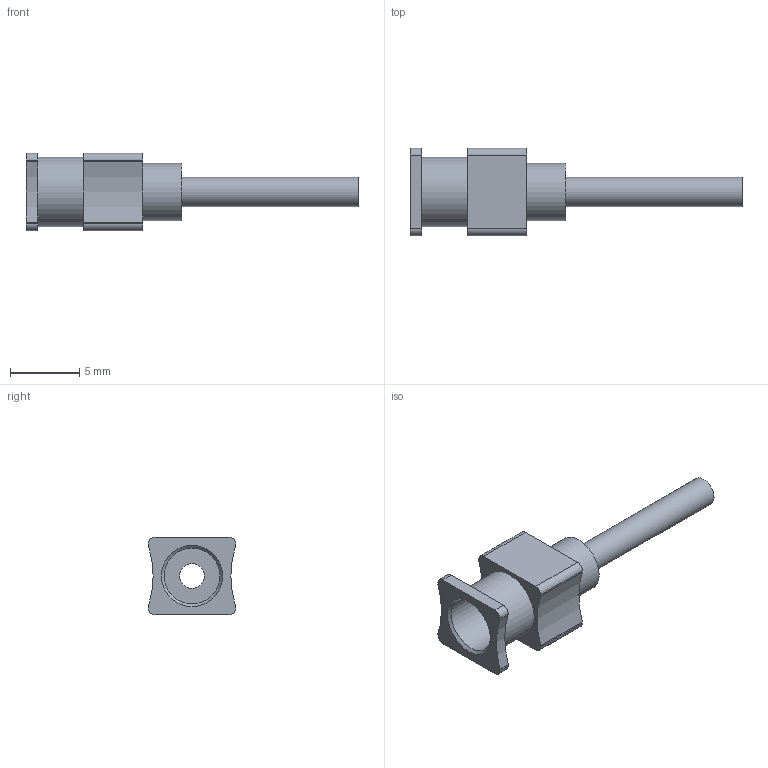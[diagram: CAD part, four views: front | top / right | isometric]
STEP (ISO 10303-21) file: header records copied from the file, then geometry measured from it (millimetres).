
FILE_DESCRIPTION (( 'STEP AP214' ), '1' );
FILE_NAME ('DAV SS 14 05.STEP', '2022-04-14T11:19:17', ( '' ), ( '' ), 'SwSTEP 2.0', 'SolidWorks 2021', '' );
FILE_SCHEMA (( 'AUTOMOTIVE_DESIGN' ));
Length unit declared in the file: millimetre
Products named in the file (1): DAV SS 14 05
Bounding box: 23.9 x 6.3 x 5.6 mm (x, y, z)
Volume: 182.9 mm3; surface area: 559.7 mm2
Topology: 1 solids, 1 shells, 37 faces, 91 edges, 61 vertices
Faces by surface type: plane 19, cylinder 17, cone 1
Full cylindrical faces by diameter (mm): 1.77 x1, 2.11 x1, 4 x1, 4.11 x1, 5 x1
Entity records: 1098 total; most frequent: DIRECTION 194, CARTESIAN_POINT 180, ORIENTED_EDGE 166, EDGE_CURVE 83, AXIS2_PLACEMENT_3D 73, VERTEX_POINT 59, EDGE_LOOP 50, VECTOR 48
